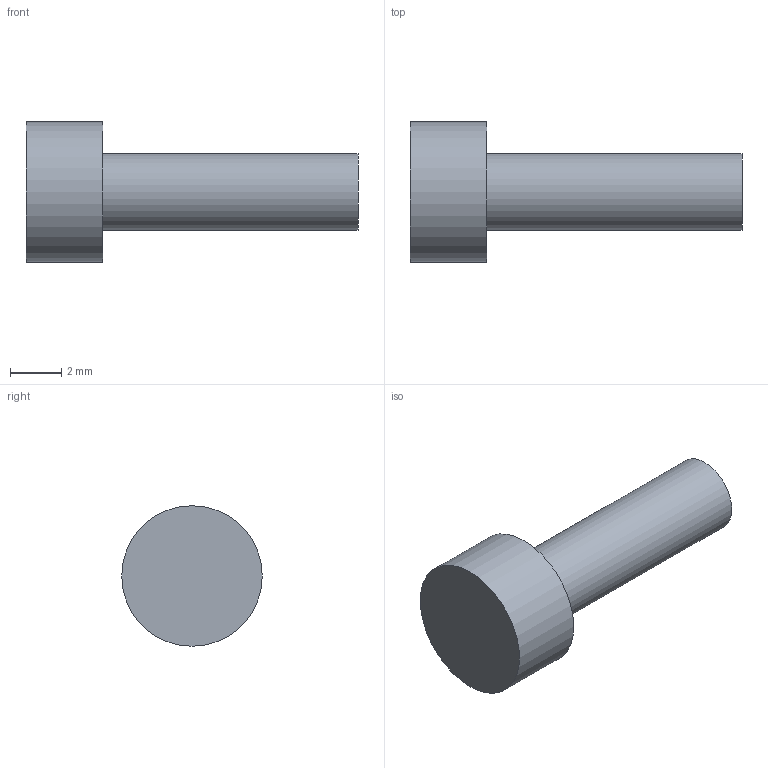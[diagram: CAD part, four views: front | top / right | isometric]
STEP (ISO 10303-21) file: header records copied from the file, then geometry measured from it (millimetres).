
FILE_DESCRIPTION(('FreeCAD Model'),'2;1');
FILE_NAME('Open CASCADE Shape Model','2026-11-20T03:22:07',('FreeCAD'),( 'FreeCAD'),'Open CASCADE STEP processor 7.8','FreeCAD','Unknown');
FILE_SCHEMA(('AUTOMOTIVE_DESIGN { 1 0 10303 214 1 1 1 1 }'));
Length unit declared in the file: millimetre
Products named in the file (1): Open CASCADE STEP translator 7.8 7
Bounding box: 13 x 5.5 x 5.5 mm (x, y, z)
Volume: 142 mm3; surface area: 193.6 mm2
Topology: 1 solids, 1 shells, 5 faces, 6 edges, 4 vertices
Faces by surface type: plane 3, cylinder 2
Full cylindrical faces by diameter (mm): 3 x1, 5.5 x1
Entity records: 114 total; most frequent: DIRECTION 22, CARTESIAN_POINT 16, ORIENTED_EDGE 12, AXIS2_PLACEMENT_3D 10, FACE_BOUND 6, EDGE_LOOP 6, EDGE_CURVE 6, ADVANCED_FACE 5
